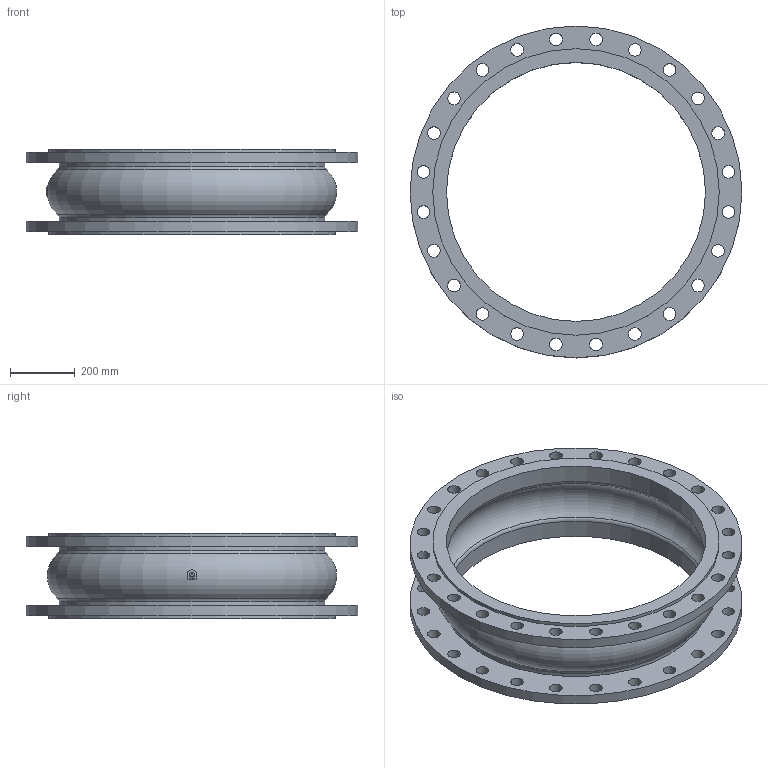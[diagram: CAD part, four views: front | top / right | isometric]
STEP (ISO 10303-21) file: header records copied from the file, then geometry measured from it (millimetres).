
FILE_DESCRIPTION(('STEP AP203'), '1');
FILE_NAME('Êîìïåíñàòîð KMS DN800 PN16_L265', '', ('UNSPECIFIED'), ('UNSPECIFIED'), 'ASCON STEP Converter 1.6', 'ASCON Math Kernel', '');
FILE_SCHEMA(('CONFIG_CONTROL_DESIGN'));
Length unit declared in the file: millimetre
Bounding box: 1025 x 1025 x 265 mm (x, y, z)
Volume: 26536668.9 mm3; surface area: 2872254 mm2
Topology: 1 solids, 1 shells, 85 faces, 220 edges, 144 vertices
Faces by surface type: cylinder 63, plane 13, torus 9
Full cylindrical faces by diameter (mm): 39 x48, 800 x2, 820 x2, 885 x2, 1025 x2
Entity records: 4183 total; most frequent: CARTESIAN_POINT 1362, DIRECTION 430, ORIENTED_EDGE 316, EDGE_LOOP 252, AXIS2_PLACEMENT_3D 208, EDGE_CURVE 158, VERTEX_POINT 144, FACE_BOUND 128
